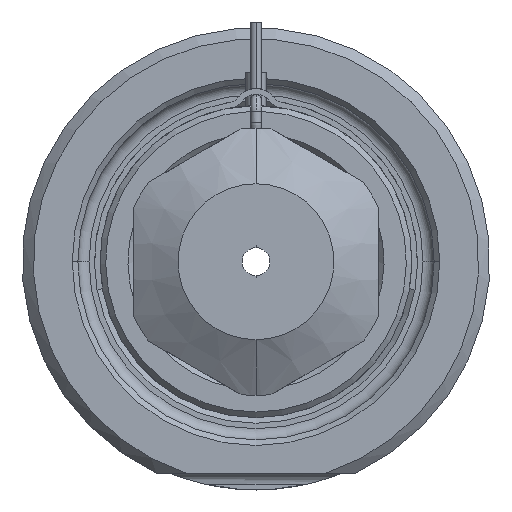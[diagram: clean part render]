
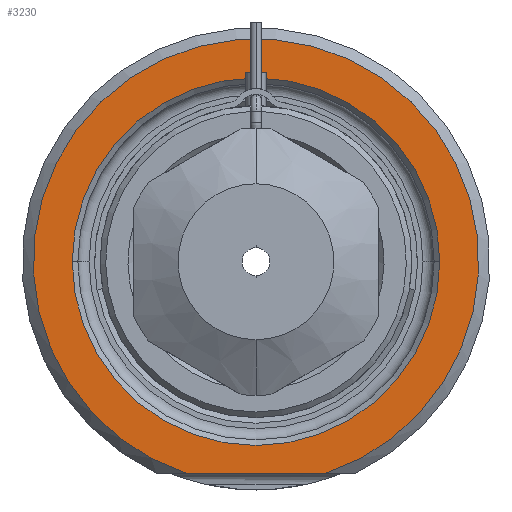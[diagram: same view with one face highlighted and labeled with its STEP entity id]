
A CAD part, front view. The second image highlights one B-rep face of the part: STEP entity #3230.
In plain terms, the highlighted planar face has unit normal (0, -1, 0).
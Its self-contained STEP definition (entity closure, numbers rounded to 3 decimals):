
#1=DIRECTION('',(1.,0.,0.));
#2=VECTOR('',#1,12.49);
#3=CARTESIAN_POINT('',(-6.245,0.,-19.));
#4=LINE('',#3,#2);
#5=CARTESIAN_POINT('',(0.,0.,0.));
#6=DIRECTION('',(0.,1.,0.));
#7=DIRECTION('',(-1.,0.,0.));
#8=AXIS2_PLACEMENT_3D('',#5,#6,#7);
#10=CARTESIAN_POINT('',(0.,0.,0.));
#11=DIRECTION('',(0.,1.,0.));
#12=DIRECTION('',(1.,0.,0.));
#13=AXIS2_PLACEMENT_3D('',#10,#11,#12);
#119=CARTESIAN_POINT('',(0.,0.,0.));
#120=DIRECTION('',(0.,-1.,0.));
#121=DIRECTION('',(0.312,0.,-0.95));
#122=AXIS2_PLACEMENT_3D('',#119,#120,#121);
#2688=CARTESIAN_POINT('',(-16.5,0.,0.));
#2689=CARTESIAN_POINT('',(16.5,0.,0.));
#2690=VERTEX_POINT('',#2688);
#2691=VERTEX_POINT('',#2689);
#2728=CARTESIAN_POINT('',(-6.245,0.,-19.));
#2729=CARTESIAN_POINT('',(6.245,0.,-19.));
#2730=VERTEX_POINT('',#2728);
#2731=VERTEX_POINT('',#2729);
#3213=CARTESIAN_POINT('',(0.,0.,0.));
#3214=DIRECTION('',(0.,-1.,0.));
#3215=DIRECTION('',(1.,0.,0.));
#3216=AXIS2_PLACEMENT_3D('',#3213,#3214,#3215);
#3217=PLANE('',#3216);
#3219=ORIENTED_EDGE('',*,*,#3218,.F.);
#3221=ORIENTED_EDGE('',*,*,#3220,.F.);
#3222=EDGE_LOOP('',(#3219,#3221));
#3223=FACE_OUTER_BOUND('',#3222,.F.);
#3225=ORIENTED_EDGE('',*,*,#3224,.F.);
#3227=ORIENTED_EDGE('',*,*,#3226,.F.);
#3228=EDGE_LOOP('',(#3225,#3227));
#3229=FACE_BOUND('',#3228,.F.);
#3230=ADVANCED_FACE('',(#3223,#3229),#3217,.T.);
#9=CIRCLE('',#8,16.5);
#14=CIRCLE('',#13,16.5);
#123=CIRCLE('',#122,20.);
#3218=EDGE_CURVE('',#2730,#2731,#4,.T.);
#3220=EDGE_CURVE('',#2731,#2730,#123,.T.);
#3224=EDGE_CURVE('',#2690,#2691,#9,.T.);
#3226=EDGE_CURVE('',#2691,#2690,#14,.T.);
